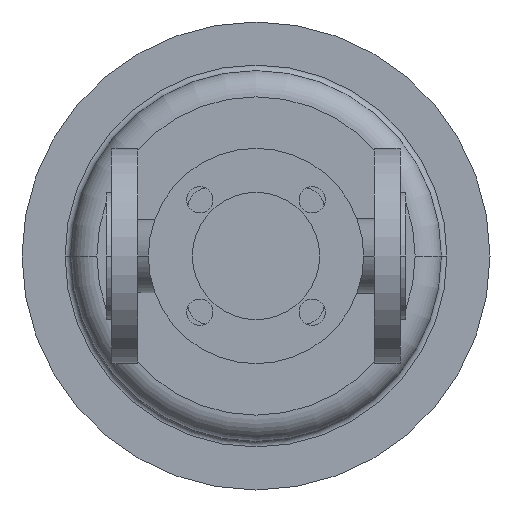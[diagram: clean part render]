
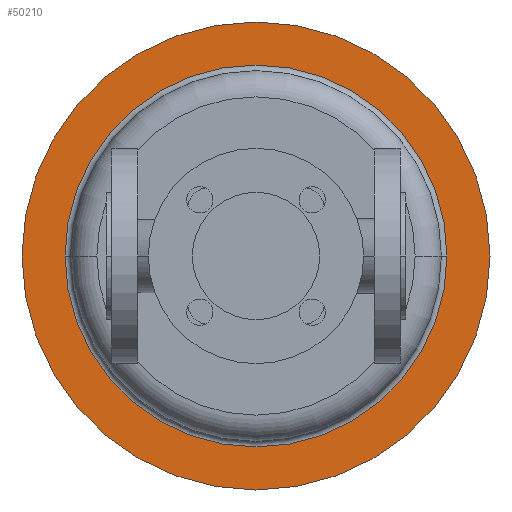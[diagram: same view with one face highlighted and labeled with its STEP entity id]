
A CAD part, front view. The second image highlights one B-rep face of the part: STEP entity #50210.
In plain terms, the highlighted planar face has unit normal (0, -1, 0).
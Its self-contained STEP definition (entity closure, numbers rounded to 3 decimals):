
#36270=CARTESIAN_POINT('',(-45.,387.,0.));
#36280=VERTEX_POINT('',#36270);
#36310=CARTESIAN_POINT('',(80.,387.,0.));
#36320=DIRECTION('',(0.,1.,0.));
#36330=DIRECTION('',(1.,0.,0.));
#36340=AXIS2_PLACEMENT_3D('',#36310,#36320,#36330);
#36350=CIRCLE('',#36340,125.);
#36360=CARTESIAN_POINT('',(205.,387.,0.));
#36370=VERTEX_POINT('',#36360);
#36380=EDGE_CURVE('',#36370,#36280,#36350,.T.);
#36630=CARTESIAN_POINT('',(80.,387.,0.));
#36640=DIRECTION('',(0.,1.,0.));
#36650=DIRECTION('',(1.,0.,0.));
#36660=AXIS2_PLACEMENT_3D('',#36630,#36640,#36650);
#36670=CIRCLE('',#36660,102.);
#36680=CARTESIAN_POINT('',(80.,387.,102.));
#36690=VERTEX_POINT('',#36680);
#36700=CARTESIAN_POINT('',(182.,387.,0.));
#36710=VERTEX_POINT('',#36700);
#36720=EDGE_CURVE('',#36690,#36710,#36670,.T.);
#37010=CARTESIAN_POINT('',(-22.,387.,0.));
#37020=VERTEX_POINT('',#37010);
#37050=EDGE_CURVE('',#37020,#36690,#36670,.T.);
#50050=CARTESIAN_POINT('',(193.5,387.,0.));
#50060=DIRECTION('',(0.,-1.,0.));
#50070=DIRECTION('',(-1.,0.,0.));
#50080=AXIS2_PLACEMENT_3D('',#50050,#50060,#50070);
#50090=PLANE('',#50080);
#50100=ORIENTED_EDGE('',*,*,#36380,.F.);
#50110=EDGE_CURVE('',#36280,#36370,#36350,.T.);
#50120=ORIENTED_EDGE('',*,*,#50110,.F.);
#50130=EDGE_LOOP('',(#50120,#50100));
#50140=FACE_OUTER_BOUND('',#50130,.T.);
#50150=EDGE_CURVE('',#36710,#37020,#36670,.T.);
#50160=ORIENTED_EDGE('',*,*,#50150,.T.);
#50170=ORIENTED_EDGE('',*,*,#36720,.T.);
#50180=ORIENTED_EDGE('',*,*,#37050,.T.);
#50190=EDGE_LOOP('',(#50180,#50170,#50160));
#50200=FACE_BOUND('',#50190,.T.);
#50210=ADVANCED_FACE('',(#50140,#50200),#50090,.T.);
